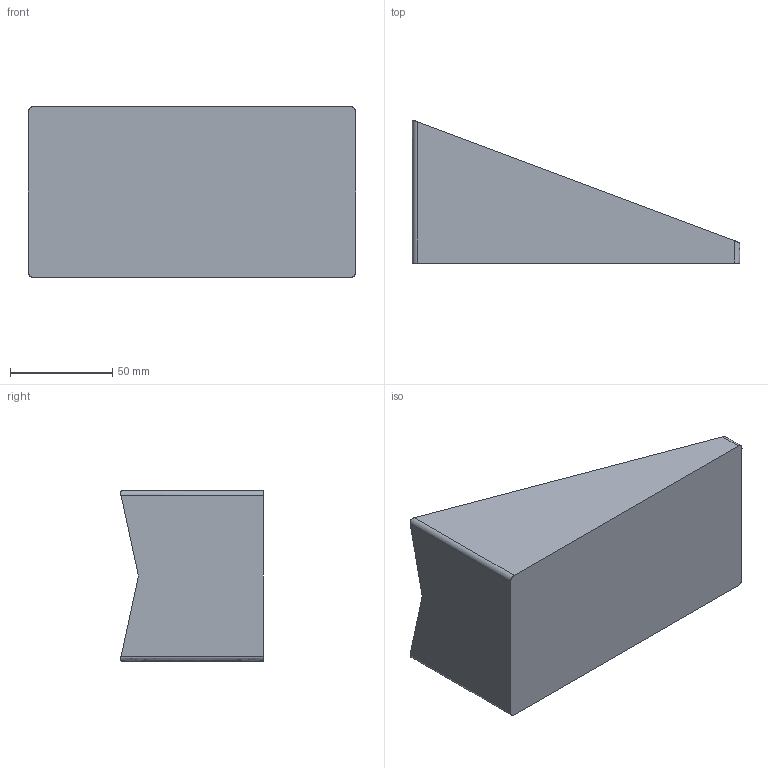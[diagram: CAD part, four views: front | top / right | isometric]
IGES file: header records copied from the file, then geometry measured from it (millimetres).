
Start section: SolidWorks IGES file using analytic representation for surfaces
Global section: file name: E:\Studium\I4.0\fts\Kleine Bauteile\schiefer.IGS; native system: SolidWorks 2013; preprocessor: SolidWorks 2013; author: Ludwig Jiawei Luo; date: 180202.213700; units: millimetre
Bounding box: 160 x 69.6 x 83.5 mm (x, y, z)
Surface area: 46457 mm2 (no closed solid volume)
Topology: 0 solids, 0 shells, 13 faces, 142 edges, 142 vertices
Faces by surface type: bspline 7, revolution 6
